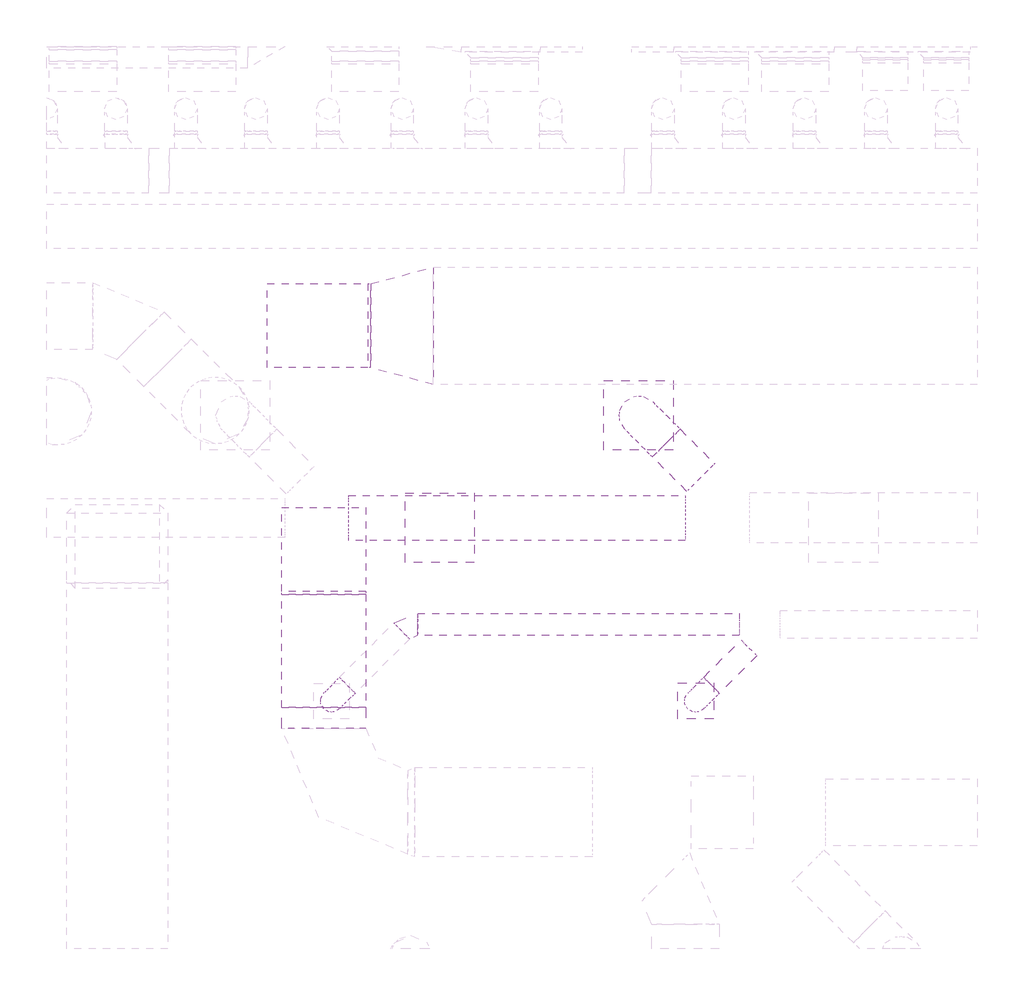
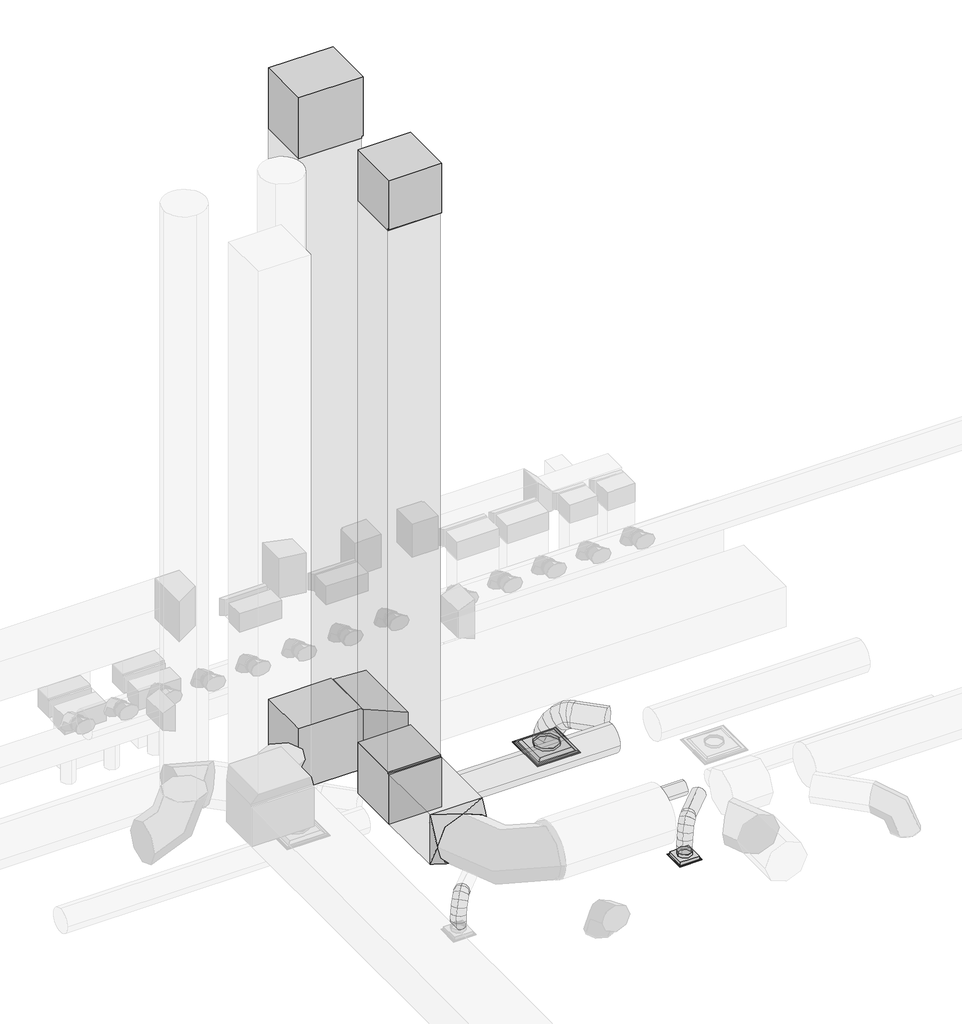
# One storey, part 19 of 33: 10 duct segments, 7 duct fittings, 3 air terminals.
"""IFC4 building model written with IfcOpenShell, lengths in millimetres."""

from ifc_helpers import new_model, si_unit, point, frame, frame_2d, origin, place, context, project, spatial, polyline, circle_curve, ellipse_curve, trimmed, segment, composite_curve, outline, extrude, transform, mapped, element, save
from ifc_brep_helpers import plane_surface, cylinder_surface, advanced_brep
from components import air_terminal_1ddfe03e, air_terminal_0721d01d, par_aa_10_24x24_32668ffe, rectangular_elbow_mitered_standard_415135ef, rectangular_elbow_mitered_standard_6dab44a9, rectangular_transition_angle_30_degree_24c31662, rectangular_to_round_transition_angle_45_degree_88719520, round_elbow_1_d_ab3aa7ba

model = new_model("IFC4")

# Units and contexts
model_context = context("Model", 3, world=origin())
ifc_project = project(units=[si_unit("LENGTHUNIT", "METRE", prefix="MILLI")], contexts=[model_context])

# Site, building, storey
site = spatial("IfcSite", under=ifc_project)
building = spatial("IfcBuilding", under=site)
storey = spatial("IfcBuildingStorey", under=building, Name="T.O. SLAB - 1ST", Elevation=-25.4)

# Air terminals
placement = place(None, origin())
air_terminal_shape = air_terminal_1ddfe03e(model_context)
element("IfcAirTerminal", 1, ObjectType="Titus-Round_Neck_Supply_Diffuser-PCS_Surface_Mount : PCS AA-14_24x24", at=placement, inside=storey, context=model_context, shape_type="MappedRepresentation", body=[
    mapped(air_terminal_shape, transform((23136.5003593, 22983.6286711, 3327.4), x_axis=(1.0, 0.0, 0.0), y_axis=(0.0, -1.0, 0.0), z_axis=(0.0, 0.0, -1.0))),
])
air_terminal_2_shape = air_terminal_0721d01d(model_context)
element("IfcAirTerminal", 2, ObjectType="Titus-Round_Neck_Supply_Diffuser-PCS_Surface_Mount : PCS AA-08_12x12", at=placement, inside=storey, context=model_context, shape_type="MappedRepresentation", body=[
    mapped(air_terminal_2_shape, transform((23653.721449, 20392.8311449, 3022.6), x_axis=(1.0, 0.0, 0.0), y_axis=(0.0, -1.0, 0.0), z_axis=(0.0, 0.0, -1.0))),
])
par_aa_10_24x24_shape = par_aa_10_24x24_32668ffe(model_context)
element("IfcAirTerminal", 3, ObjectType="Titus-Round_Neck_Return_Diffuser-PAR_Surface_Mount : PAR AA-10_24x24", at=placement, inside=storey, context=model_context, shape_type="MappedRepresentation", body=[
    mapped(par_aa_10_24x24_shape, transform((21333.4684507, 21965.7752957, 3327.4), x_axis=(1.0, 0.0, 0.0), y_axis=(0.0, -1.0, 0.0), z_axis=(0.0, 0.0, -1.0))),
])

# Duct fittings
rectangular_elbow_mitered_standard_shape = rectangular_elbow_mitered_standard_415135ef(model_context)
element("IfcDuctFitting", 4, ObjectType="Rectangular Elbow - Mitered : Standard", at=placement, inside=storey, context=model_context, shape_type="MappedRepresentation", body=[
    mapped(rectangular_elbow_mitered_standard_shape, transform((20224.9472431, 23796.4195003, 4038.6), x_axis=(-1.0, 0.0, 0.0), y_axis=(0.0, 0.0, 1.0), z_axis=(0.0, 1.0, 0.0))),
])
element("IfcDuctFitting", 5, ObjectType="Rectangular Elbow - Mitered : Standard", at=placement, inside=storey, context=model_context, shape_type="MappedRepresentation", body=[
    mapped(rectangular_elbow_mitered_standard_shape, transform((20224.9472431, 23796.4195003, 13798.55), x_axis=(0.0, 0.0, 1.0), y_axis=(1.0, 0.0, 0.0), z_axis=(0.0, 1.0, 0.0))),
])
rectangular_elbow_mitered_standard_2_shape = rectangular_elbow_mitered_standard_6dab44a9(model_context)
element("IfcDuctFitting", 6, ObjectType="Rectangular Elbow - Mitered : Standard", at=placement, inside=storey, context=model_context, shape_type="MappedRepresentation", body=[
    mapped(rectangular_elbow_mitered_standard_2_shape, transform((20282.0928767, 21765.894536, 4635.5), x_axis=(0.0, 0.0, -1.0), y_axis=(0.0, -1.0, 0.0), z_axis=(-1.0, 0.0, 0.0))),
])
element("IfcDuctFitting", 7, ObjectType="Rectangular Elbow - Mitered : Standard", at=placement, inside=storey, context=model_context, shape_type="MappedRepresentation", body=[
    mapped(rectangular_elbow_mitered_standard_2_shape, transform((20282.0928767, 21765.894536, 13798.55), x_axis=(0.0, 0.0, 1.0), y_axis=(0.0, -1.0, 0.0), z_axis=(1.0, 0.0, 0.0))),
])
rectangular_transition_angle_30_degree_shape = rectangular_transition_angle_30_degree_24c31662(model_context)
element("IfcDuctFitting", 8, ObjectType="Rectangular Transition - Angle : 30 Degree", at=placement, inside=storey, context=model_context, shape_type="MappedRepresentation", body=[
    mapped(rectangular_transition_angle_30_degree_shape, transform((20707.5472431, 23796.4195003, 4038.6), x_axis=(1.0, 0.0, 0.0), y_axis=(0.0, 1.0, 0.0), z_axis=(0.0, 0.0, 1.0))),
])
rectangular_to_round_transition_angle_45_degree_shape = rectangular_to_round_transition_angle_45_degree_88719520(model_context)
element("IfcDuctFitting", 9, ObjectType="Rectangular to Round Transition - Angle : 45 Degree", at=placement, inside=storey, context=model_context, shape_type="MappedRepresentation", body=[
    mapped(rectangular_to_round_transition_angle_45_degree_shape, transform((20282.0928767, 20334.3097283, 4635.5), x_axis=(0.0022149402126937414, -0.9999975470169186, 0.0), y_axis=(0.9999975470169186, 0.0022149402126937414, 0.0), z_axis=(0.0, 0.0, 1.0))),
])
round_elbow_1_d_shape = round_elbow_1_d_ab3aa7ba(model_context)
element("IfcDuctFitting", 10, ObjectType="Round Elbow : 1 D", at=placement, inside=storey, context=model_context, shape_type="MappedRepresentation", body=[
    mapped(round_elbow_1_d_shape, transform((21047.5507271, 21087.5678553, 3530.6), x_axis=(-1.0, 0.0, 0.0), y_axis=(0.0, -1.0, 0.0), z_axis=(0.0, 0.0, 1.0))),
])

# Duct segments
element("IfcDuctSegment", 11, ObjectType="Flex - Round", at=placement, inside=storey, context=model_context, shape_type="AdvancedBrep", body=[
    advanced_brep(
    [(23869.2474656, 20463.5313612, 3530.6), (23797.4054167, 20535.3734102, 3429.0), (23725.5633677, 20607.2154591, 3530.6), (23797.4054167, 20535.3734102, 3632.2), (23849.0418095, 20443.3257051, 3530.6), (23794.2754474, 20532.2434409, 3429.0), (23705.4598626, 20587.111954, 3530.6), (23760.2262247, 20498.1942182, 3632.2), (23725.3956733, 20320.8216623, 3117.85), (23581.7119665, 20321.1569206, 3117.85), (23582.0472248, 20464.8406274, 3117.85), (23725.7309316, 20464.5053691, 3117.85), (23820.8574207, 20415.226107, 3510.6152643), (23791.9815478, 20529.9564423, 3427.3734621), (23677.4218962, 20559.1583379, 3510.7190883), (23706.2977691, 20444.4280026, 3593.9608904), (23783.6764764, 20378.2568082, 3457.5358649), (23771.1985421, 20509.29174, 3397.7037084), (23640.3179554, 20522.2656043, 3457.7496188), (23652.7958897, 20391.2306726, 3517.5817753), (23756.5972214, 20351.4525413, 3381.543915), (23752.2964403, 20490.5815877, 3344.6591332), (23613.2650413, 20495.4874107, 3381.8315887), (23617.5658224, 20356.3583643, 3418.7163705), (23738.5613301, 20333.6914922, 3292.823325), (23737.3643407, 20475.8770328, 3271.2064459), (23595.2275642, 20477.7248, 3293.1031979), (23596.4245536, 20335.5392594, 3314.7200771), (23728.5118725, 20323.8533603, 3201.5338467), (23728.5415362, 20467.2397593, 3191.0599091), (23585.1685387, 20467.8773015, 3201.7268049), (23585.1388751, 20324.4909026, 3212.2007425), (23725.3956733, 20320.8216623, 3123.0874752), (23725.7309316, 20464.5053691, 3120.3064953), (23582.0472248, 20464.8406274, 3123.1516756), (23581.7119665, 20321.1569206, 3125.9326554)],
    [
        (0, 1, circle_curve(frame((23797.4054167, 20535.3734102, 3530.6), z_axis=(0.7071067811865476, 0.7071067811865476, 0.0), x_axis=(0.7071067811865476, -0.7071067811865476, 0.0)), 101.6)),
        (1, 2, circle_curve(frame((23797.4054167, 20535.3734102, 3530.6), z_axis=(0.7071067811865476, 0.7071067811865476, 0.0), x_axis=(0.7071067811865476, -0.7071067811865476, 0.0)), 101.6)),
        (2, 3, circle_curve(frame((23797.4054167, 20535.3734102, 3530.6), z_axis=(0.7071067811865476, 0.7071067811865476, 0.0), x_axis=(0.7071067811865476, -0.7071067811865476, 0.0)), 101.6)),
        (3, 0, circle_curve(frame((23797.4054167, 20535.3734102, 3530.6), z_axis=(0.7071067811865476, 0.7071067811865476, 0.0), x_axis=(0.7071067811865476, -0.7071067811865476, 0.0)), 101.6)),
        (0, 4),
        (4, 5, ellipse_curve(frame((23777.250836, 20515.2188295, 3530.6), z_axis=(0.6885404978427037, 0.6875621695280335, 0.2305867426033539), x_axis=(0.16098597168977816, 0.16511439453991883, -0.9730471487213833)), 104.4137922, 101.6)),
        (5, 1),
        (5, 6, ellipse_curve(frame((23777.250836, 20515.2188295, 3530.6), z_axis=(0.6885404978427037, 0.6875621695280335, 0.2305867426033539), x_axis=(0.16098597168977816, 0.16511439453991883, -0.9730471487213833)), 104.4137922, 101.6)),
        (6, 2),
        (6, 7, ellipse_curve(frame((23777.250836, 20515.2188295, 3530.6), z_axis=(0.6885404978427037, 0.6875621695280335, 0.2305867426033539), x_axis=(0.16098597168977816, 0.16511439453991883, -0.9730471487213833)), 104.4137922, 101.6)),
        (7, 3),
        (7, 4, ellipse_curve(frame((23777.250836, 20515.2188295, 3530.6), z_axis=(0.6885404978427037, 0.6875621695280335, 0.2305867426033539), x_axis=(0.16098597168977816, 0.16511439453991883, -0.9730471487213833)), 104.4137922, 101.6)),
        (8, 9, circle_curve(frame((23653.721449, 20392.8311449, 3117.85), z_axis=(0.0, 0.0, -1.0), x_axis=(0.7054549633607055, -0.7087547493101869, 0.0)), 101.6)),
        (9, 10, circle_curve(frame((23653.721449, 20392.8311449, 3117.85), z_axis=(0.0, 0.0, -1.0), x_axis=(0.7054549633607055, -0.7087547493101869, 0.0)), 101.6)),
        (10, 11, circle_curve(frame((23653.721449, 20392.8311449, 3117.85), z_axis=(0.0, 0.0, -1.0), x_axis=(0.7054549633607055, -0.7087547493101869, 0.0)), 101.6)),
        (11, 8, circle_curve(frame((23653.721449, 20392.8311449, 3117.85), z_axis=(0.0, 0.0, -1.0), x_axis=(0.7054549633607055, -0.7087547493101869, 0.0)), 101.6)),
        (4, 12),
        (12, 13, ellipse_curve(frame((23749.1396584, 20487.1922225, 3510.6671763), z_axis=(0.5732082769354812, 0.5708060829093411, 0.5878883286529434), x_axis=(0.4142652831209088, 0.41713779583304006, -0.8089377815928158)), 102.96626, 101.6)),
        (13, 5),
        (13, 14, ellipse_curve(frame((23749.1396584, 20487.1922225, 3510.6671763), z_axis=(0.5732082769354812, 0.5708060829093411, 0.5878883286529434), x_axis=(0.4142652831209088, 0.41713779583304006, -0.8089377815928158)), 102.96626, 101.6)),
        (14, 6),
        (14, 15, ellipse_curve(frame((23749.1396584, 20487.1922225, 3510.6671763), z_axis=(0.5732082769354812, 0.5708060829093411, 0.5878883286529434), x_axis=(0.4142652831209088, 0.41713779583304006, -0.8089377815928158)), 102.96626, 101.6)),
        (15, 7),
        (15, 12, ellipse_curve(frame((23749.1396584, 20487.1922225, 3510.6671763), z_axis=(0.5732082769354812, 0.5708060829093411, 0.5878883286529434), x_axis=(0.4142652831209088, 0.41713779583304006, -0.8089377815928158)), 102.96626, 101.6)),
        (12, 16),
        (16, 17, ellipse_curve(frame((23711.9972159, 20450.2612063, 3457.6427418), z_axis=(0.41354590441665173, 0.41047221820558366, 0.8127068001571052), x_axis=(0.5740369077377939, 0.5753079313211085, -0.582668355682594)), 102.8692851, 101.6)),
        (17, 13),
        (17, 18, ellipse_curve(frame((23711.9972159, 20450.2612063, 3457.6427418), z_axis=(0.41354590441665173, 0.41047221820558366, 0.8127068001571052), x_axis=(0.5740369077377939, 0.5753079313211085, -0.582668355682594)), 102.8692851, 101.6)),
        (18, 14),
        (18, 19, ellipse_curve(frame((23711.9972159, 20450.2612063, 3457.6427418), z_axis=(0.41354590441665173, 0.41047221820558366, 0.8127068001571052), x_axis=(0.5740369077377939, 0.5753079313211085, -0.582668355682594)), 102.8692851, 101.6)),
        (19, 15),
        (19, 16, ellipse_curve(frame((23711.9972159, 20450.2612063, 3457.6427418), z_axis=(0.41354590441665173, 0.41047221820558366, 0.8127068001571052), x_axis=(0.5740369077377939, 0.5753079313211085, -0.582668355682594)), 102.8692851, 101.6)),
        (16, 20),
        (20, 21, ellipse_curve(frame((23684.9311314, 20423.469976, 3381.6877519), z_axis=(0.25814230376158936, 0.25502181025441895, 0.9318403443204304), x_axis=(0.6595970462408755, 0.6582256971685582, -0.36286453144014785)), 102.0449505, 101.6)),
        (21, 17),
        (21, 22, ellipse_curve(frame((23684.9311314, 20423.469976, 3381.6877519), z_axis=(0.25814230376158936, 0.25502181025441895, 0.9318403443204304), x_axis=(0.6595970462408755, 0.6582256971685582, -0.36286453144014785)), 102.0449505, 101.6)),
        (22, 18),
        (22, 23, ellipse_curve(frame((23684.9311314, 20423.469976, 3381.6877519), z_axis=(0.25814230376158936, 0.25502181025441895, 0.9318403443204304), x_axis=(0.6595970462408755, 0.6582256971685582, -0.36286453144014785)), 102.0449505, 101.6)),
        (23, 19),
        (23, 20, ellipse_curve(frame((23684.9311314, 20423.469976, 3381.6877519), z_axis=(0.25814230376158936, 0.25502181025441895, 0.9318403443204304), x_axis=(0.6595970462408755, 0.6582256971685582, -0.36286453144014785)), 102.0449505, 101.6)),
        (20, 24),
        (24, 25, ellipse_curve(frame((23666.8944472, 20405.7081461, 3292.9632615), z_axis=(0.15244183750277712, 0.14980324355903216, 0.9768932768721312), x_axis=(0.6935270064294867, 0.6879983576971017, -0.21372541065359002)), 101.7990065, 101.6)),
        (25, 21),
        (25, 26, ellipse_curve(frame((23666.8944472, 20405.7081461, 3292.9632615), z_axis=(0.15244183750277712, 0.14980324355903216, 0.9768932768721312), x_axis=(0.6935270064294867, 0.6879983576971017, -0.21372541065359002)), 101.7990065, 101.6)),
        (26, 22),
        (26, 27, ellipse_curve(frame((23666.8944472, 20405.7081461, 3292.9632615), z_axis=(0.15244183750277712, 0.14980324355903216, 0.9768932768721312), x_axis=(0.6935270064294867, 0.6879983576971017, -0.21372541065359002)), 101.7990065, 101.6)),
        (27, 23),
        (27, 24, ellipse_curve(frame((23666.8944472, 20405.7081461, 3292.9632615), z_axis=(0.15244183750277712, 0.14980324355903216, 0.9768932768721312), x_axis=(0.6935270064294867, 0.6879983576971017, -0.21372541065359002)), 101.7990065, 101.6)),
        (24, 28),
        (28, 29, ellipse_curve(frame((23656.8402056, 20395.8653309, 3201.6303258), z_axis=(0.07431978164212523, 0.07263606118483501, 0.9945856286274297), x_axis=(0.7094713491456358, 0.6970301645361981, -0.10391994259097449)), 101.7208169, 101.6)),
        (29, 25),
        (29, 30, ellipse_curve(frame((23656.8402056, 20395.8653309, 3201.6303258), z_axis=(0.07431978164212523, 0.07263606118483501, 0.9945856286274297), x_axis=(0.7094713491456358, 0.6970301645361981, -0.10391994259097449)), 101.7208169, 101.6)),
        (30, 26),
        (30, 31, ellipse_curve(frame((23656.8402056, 20395.8653309, 3201.6303258), z_axis=(0.07431978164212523, 0.07263606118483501, 0.9945856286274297), x_axis=(0.7094713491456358, 0.6970301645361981, -0.10391994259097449)), 101.7208169, 101.6)),
        (31, 27),
        (31, 28, ellipse_curve(frame((23656.8402056, 20395.8653309, 3201.6303258), z_axis=(0.07431978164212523, 0.07263606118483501, 0.9945856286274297), x_axis=(0.7094713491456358, 0.6970301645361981, -0.10391994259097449)), 101.7208169, 101.6)),
        (28, 32),
        (32, 33, ellipse_curve(frame((23653.721449, 20392.8311449, 3123.1195754), z_axis=(0.019839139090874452, 0.019301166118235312, 0.9996168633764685), x_axis=(0.7164834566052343, 0.6970547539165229, -0.02767898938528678)), 101.6389416, 101.6)),
        (33, 29),
        (33, 34, ellipse_curve(frame((23653.721449, 20392.8311449, 3123.1195754), z_axis=(0.019839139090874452, 0.019301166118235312, 0.9996168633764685), x_axis=(0.7164834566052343, 0.6970547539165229, -0.02767898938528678)), 101.6389416, 101.6)),
        (34, 30),
        (34, 35, ellipse_curve(frame((23653.721449, 20392.8311449, 3123.1195754), z_axis=(0.019839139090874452, 0.019301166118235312, 0.9996168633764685), x_axis=(0.7164834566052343, 0.6970547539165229, -0.02767898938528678)), 101.6389416, 101.6)),
        (35, 31),
        (35, 32, ellipse_curve(frame((23653.721449, 20392.8311449, 3123.1195754), z_axis=(0.019839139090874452, 0.019301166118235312, 0.9996168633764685), x_axis=(0.7164834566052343, 0.6970547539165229, -0.02767898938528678)), 101.6389416, 101.6)),
        (32, 8),
        (11, 33),
        (10, 34),
        (9, 35),
    ],
    [
        plane_surface(frame((23797.4054167, 20535.3734102, 3429.0), z_axis=(0.7071067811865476, 0.7071067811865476, 0.0), x_axis=(0.7071067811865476, -0.7071067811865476, 0.0))),
        cylinder_surface(frame((23797.4054167, 20535.3734102, 3530.6), z_axis=(0.7071067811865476, 0.7071067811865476, 0.0), x_axis=(0.7071067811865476, -0.7071067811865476, 0.0)), 101.6),
        plane_surface(frame((23653.721449, 20291.2311449, 3117.85), z_axis=(0.0, 0.0, -1.0), x_axis=(-1.0, 0.0, 0.0))),
        cylinder_surface(frame((23777.250836, 20515.2188295, 3530.6), z_axis=(0.6328639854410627, 0.6309600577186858, 0.44874556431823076), x_axis=(0.7061541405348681, -0.708058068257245, -0.0003190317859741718)), 101.6),
        cylinder_surface(frame((23749.1396584, 20487.1922225, 3510.6671763), z_axis=(0.4983407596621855, 0.4955040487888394, 0.7114297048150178), x_axis=(0.7056703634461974, -0.7085398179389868, -0.0008151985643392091)), 101.6),
        cylinder_surface(frame((23711.9972159, 20450.2612063, 3457.6427418), z_axis=(0.31854571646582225, 0.31531090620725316, 0.893928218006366), x_axis=(0.7053985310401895, -0.7088096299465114, -0.0013494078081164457)), 101.6),
        cylinder_surface(frame((23684.9311314, 20423.469976, 3381.6877519), z_axis=(0.19548771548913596, 0.1925087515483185, 0.9616261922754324), x_axis=(0.7053604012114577, -0.7088472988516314, -0.0014870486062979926)), 101.6),
        cylinder_surface(frame((23666.8944472, 20405.7081461, 3292.9632615), z_axis=(0.10879994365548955, 0.10651203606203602, 0.988340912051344), x_axis=(0.7053951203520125, -0.7088131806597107, -0.0012645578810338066)), 101.6),
        cylinder_surface(frame((23656.8402056, 20395.8653309, 3201.6303258), z_axis=(0.03966307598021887, 0.038587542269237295, 0.9984677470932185), x_axis=(0.7054424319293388, -0.7087669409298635, -0.0006314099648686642)), 101.6),
        cylinder_surface(frame((23653.721449, 20392.8311449, 3123.1195754), z_axis=(0.0, 0.0, 1.0), x_axis=(0.7054549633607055, -0.7087547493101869, 0.0)), 101.6),
    ],
    [
        (0, [[1, 2, 3, 4]]),
        (1, [[-1, 5, 6, 7]]),
        (1, [[-2, -7, 8, 9]]),
        (1, [[-3, -9, 10, 11]]),
        (1, [[-4, -11, 12, -5]]),
        (2, [[13, 14, 15, 16]]),
        (3, [[-6, 17, 18, 19]]),
        (3, [[-8, -19, 20, 21]]),
        (3, [[-10, -21, 22, 23]]),
        (3, [[-12, -23, 24, -17]]),
        (4, [[-18, 25, 26, 27]]),
        (4, [[-20, -27, 28, 29]]),
        (4, [[-22, -29, 30, 31]]),
        (4, [[-24, -31, 32, -25]]),
        (5, [[-26, 33, 34, 35]]),
        (5, [[-28, -35, 36, 37]]),
        (5, [[-30, -37, 38, 39]]),
        (5, [[-32, -39, 40, -33]]),
        (6, [[-34, 41, 42, 43]]),
        (6, [[-36, -43, 44, 45]]),
        (6, [[-38, -45, 46, 47]]),
        (6, [[-40, -47, 48, -41]]),
        (7, [[-42, 49, 50, 51]]),
        (7, [[-44, -51, 52, 53]]),
        (7, [[-46, -53, 54, 55]]),
        (7, [[-48, -55, 56, -49]]),
        (8, [[-50, 57, 58, 59]]),
        (8, [[-52, -59, 60, 61]]),
        (8, [[-54, -61, 62, 63]]),
        (8, [[-56, -63, 64, -57]]),
        (9, [[-58, 65, -16, 66]]),
        (9, [[-60, -66, -15, 67]]),
        (9, [[-62, -67, -14, 68]]),
        (9, [[-64, -68, -13, -65]]),
    ],
),
])
element("IfcDuctSegment", 12, ObjectType="Flex - Round", at=placement, inside=storey, context=model_context, shape_type="AdvancedBrep", body=[
    advanced_brep(
    [(20567.1983286, 20463.5313589, 3530.6), (20495.3562797, 20535.3734078, 3429.0), (20423.5142307, 20607.2154568, 3530.6), (20495.3562797, 20535.3734078, 3632.2), (20547.0788328, 20443.4118631, 3530.6), (20492.1976312, 20532.2147594, 3429.0), (20403.3947392, 20587.0959653, 3530.6), (20458.2759408, 20498.293069, 3632.2), (20423.5143515, 20319.8474304, 3117.85), (20279.8302536, 20319.8474447, 3117.85), (20279.8302679, 20463.5315426, 3117.85), (20423.5143658, 20463.5315284, 3117.85), (20518.9034884, 20415.2365222, 3510.6753982), (20489.7646951, 20529.7818235, 3427.279514), (20375.219401, 20558.9206307, 3510.6754026), (20404.3581944, 20444.3753294, 3594.0712867), (20481.7529024, 20378.0859452, 3457.6690544), (20468.9456048, 20508.9627383, 3397.574899), (20338.0688183, 20521.770057, 3457.6690635), (20350.8761158, 20390.8932639, 3517.7632188), (20454.692632, 20351.0256866, 3381.7321558), (20450.0385152, 20490.0556569, 3344.5175672), (20311.008549, 20494.7097995, 3381.732168), (20315.6626658, 20355.6798291, 3418.9467566), (20436.668741, 20333.0018072, 3293.0158897), (20435.1222896, 20475.139441, 3271.0976913), (20292.9846579, 20476.6859201, 3293.0159016), (20294.5311093, 20334.5482863, 3314.9340999), (20426.6272929, 20322.9603682, 3201.6714421), (20426.3168846, 20466.3340439, 3190.9972072), (20282.9432094, 20466.6444806, 3201.6714503), (20283.2536177, 20323.2708048, 3212.3456852), (20423.5143515, 20319.8474304, 3123.1787579), (20423.5143658, 20463.5315284, 3120.3318142), (20279.8302679, 20463.5315426, 3123.1787606), (20279.8302536, 20319.8474447, 3126.0257042)],
    [
        (0, 1, circle_curve(frame((20495.3562797, 20535.3734078, 3530.6), z_axis=(0.7071067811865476, 0.7071067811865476, 0.0), x_axis=(0.7071067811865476, -0.7071067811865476, 0.0)), 101.6)),
        (1, 2, circle_curve(frame((20495.3562797, 20535.3734078, 3530.6), z_axis=(0.7071067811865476, 0.7071067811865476, 0.0), x_axis=(0.7071067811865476, -0.7071067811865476, 0.0)), 101.6)),
        (2, 3, circle_curve(frame((20495.3562797, 20535.3734078, 3530.6), z_axis=(0.7071067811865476, 0.7071067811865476, 0.0), x_axis=(0.7071067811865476, -0.7071067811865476, 0.0)), 101.6)),
        (3, 0, circle_curve(frame((20495.3562797, 20535.3734078, 3530.6), z_axis=(0.7071067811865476, 0.7071067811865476, 0.0), x_axis=(0.7071067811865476, -0.7071067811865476, 0.0)), 101.6)),
        (0, 4),
        (4, 5, ellipse_curve(frame((20475.236786, 20515.2539142, 3530.6), z_axis=(0.6881883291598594, 0.6881882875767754, 0.22976880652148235), x_axis=(0.16247099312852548, 0.1624711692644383, -0.973245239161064)), 104.39301, 101.6)),
        (5, 1),
        (5, 6, ellipse_curve(frame((20475.236786, 20515.2539142, 3530.6), z_axis=(0.6881883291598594, 0.6881882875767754, 0.22976880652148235), x_axis=(0.16247099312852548, 0.1624711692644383, -0.973245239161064)), 104.39301, 101.6)),
        (6, 2),
        (6, 7, ellipse_curve(frame((20475.236786, 20515.2539142, 3530.6), z_axis=(0.6881883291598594, 0.6881882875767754, 0.22976880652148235), x_axis=(0.16247099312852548, 0.1624711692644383, -0.973245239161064)), 104.39301, 101.6)),
        (7, 3),
        (7, 4, ellipse_curve(frame((20475.236786, 20515.2539142, 3530.6), z_axis=(0.6881883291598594, 0.6881882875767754, 0.22976880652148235), x_axis=(0.16247099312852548, 0.1624711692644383, -0.973245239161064)), 104.39301, 101.6)),
        (8, 9, circle_curve(frame((20351.6723097, 20391.6894865, 3117.85), z_axis=(0.0, 0.0, -1.0), x_axis=(0.7071067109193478, -0.7071068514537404, 0.0)), 101.6)),
        (9, 10, circle_curve(frame((20351.6723097, 20391.6894865, 3117.85), z_axis=(0.0, 0.0, -1.0), x_axis=(0.7071067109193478, -0.7071068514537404, 0.0)), 101.6)),
        (10, 11, circle_curve(frame((20351.6723097, 20391.6894865, 3117.85), z_axis=(0.0, 0.0, -1.0), x_axis=(0.7071067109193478, -0.7071068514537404, 0.0)), 101.6)),
        (11, 8, circle_curve(frame((20351.6723097, 20391.6894865, 3117.85), z_axis=(0.0, 0.0, -1.0), x_axis=(0.7071067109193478, -0.7071068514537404, 0.0)), 101.6)),
        (4, 12),
        (12, 13, ellipse_curve(frame((20447.0614447, 20487.0785765, 3510.6754004), z_axis=(0.572711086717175, 0.5727109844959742, 0.5865186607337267), x_axis=(0.4147312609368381, 0.41473138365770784, -0.8099357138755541)), 102.9660563, 101.6)),
        (13, 5),
        (13, 14, ellipse_curve(frame((20447.0614447, 20487.0785765, 3510.6754004), z_axis=(0.572711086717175, 0.5727109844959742, 0.5865186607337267), x_axis=(0.4147312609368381, 0.41473138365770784, -0.8099357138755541)), 102.9660563, 101.6)),
        (14, 6),
        (14, 15, ellipse_curve(frame((20447.0614447, 20487.0785765, 3510.6754004), z_axis=(0.572711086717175, 0.5727109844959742, 0.5865186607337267), x_axis=(0.4147312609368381, 0.41473138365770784, -0.8099357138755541)), 102.9660563, 101.6)),
        (15, 7),
        (15, 12, ellipse_curve(frame((20447.0614447, 20487.0785765, 3510.6754004), z_axis=(0.572711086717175, 0.5727109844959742, 0.5865186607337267), x_axis=(0.4147312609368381, 0.41473138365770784, -0.8099357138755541)), 102.9660563, 101.6)),
        (12, 16),
        (16, 17, ellipse_curve(frame((20409.9108603, 20449.9280011, 3457.6690589), z_axis=(0.41308890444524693, 0.4130887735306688, 0.811612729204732), x_axis=(0.573896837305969, 0.5738968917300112, -0.5841958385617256)), 102.8664635, 101.6)),
        (17, 13),
        (17, 18, ellipse_curve(frame((20409.9108603, 20449.9280011, 3457.6690589), z_axis=(0.41308890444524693, 0.4130887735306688, 0.811612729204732), x_axis=(0.573896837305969, 0.5738968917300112, -0.5841958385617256)), 102.8664635, 101.6)),
        (18, 14),
        (18, 19, ellipse_curve(frame((20409.9108603, 20449.9280011, 3457.6690589), z_axis=(0.41308890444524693, 0.4130887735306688, 0.811612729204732), x_axis=(0.573896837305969, 0.5738968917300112, -0.5841958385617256)), 102.8664635, 101.6)),
        (19, 15),
        (19, 16, ellipse_curve(frame((20409.9108603, 20449.9280011, 3457.6690589), z_axis=(0.41308890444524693, 0.4130887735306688, 0.811612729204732), x_axis=(0.573896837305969, 0.5738968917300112, -0.5841958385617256)), 102.8664635, 101.6)),
        (16, 20),
        (20, 21, ellipse_curve(frame((20382.8505905, 20422.867743, 3381.7321619), z_axis=(0.2578712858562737, 0.2578711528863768, 0.931130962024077), x_axis=(0.6584090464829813, 0.6584089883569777, -0.3646849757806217)), 102.0458674, 101.6)),
        (21, 17),
        (21, 22, ellipse_curve(frame((20382.8505905, 20422.867743, 3381.7321619), z_axis=(0.2578712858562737, 0.2578711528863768, 0.931130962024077), x_axis=(0.6584090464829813, 0.6584089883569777, -0.3646849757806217)), 102.0458674, 101.6)),
        (22, 18),
        (22, 23, ellipse_curve(frame((20382.8505905, 20422.867743, 3381.7321619), z_axis=(0.2578712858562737, 0.2578711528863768, 0.931130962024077), x_axis=(0.6584090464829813, 0.6584089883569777, -0.3646849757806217)), 102.0458674, 101.6)),
        (23, 19),
        (23, 20, ellipse_curve(frame((20382.8505905, 20422.867743, 3381.7321619), z_axis=(0.2578712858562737, 0.2578711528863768, 0.931130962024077), x_axis=(0.6584090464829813, 0.6584089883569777, -0.3646849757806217)), 102.0458674, 101.6)),
        (20, 24),
        (24, 25, ellipse_curve(frame((20364.8266995, 20404.8438637, 3293.0158956), z_axis=(0.15224398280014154, 0.15224387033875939, 0.9765467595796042), x_axis=(0.6905229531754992, 0.690522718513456, -0.21530542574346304)), 101.80052, 101.6)),
        (25, 21),
        (25, 26, ellipse_curve(frame((20364.8266995, 20404.8438637, 3293.0158956), z_axis=(0.15224398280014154, 0.15224387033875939, 0.9765467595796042), x_axis=(0.6905229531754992, 0.690522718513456, -0.21530542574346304)), 101.80052, 101.6)),
        (26, 22),
        (26, 27, ellipse_curve(frame((20364.8266995, 20404.8438637, 3293.0158956), z_axis=(0.15224398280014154, 0.15224387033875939, 0.9765467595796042), x_axis=(0.6905229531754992, 0.690522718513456, -0.21530542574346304)), 101.80052, 101.6)),
        (27, 23),
        (27, 24, ellipse_curve(frame((20364.8266995, 20404.8438637, 3293.0158956), z_axis=(0.15224398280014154, 0.15224387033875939, 0.9765467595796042), x_axis=(0.6905229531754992, 0.690522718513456, -0.21530542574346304)), 101.80052, 101.6)),
        (24, 28),
        (28, 29, ellipse_curve(frame((20354.7852512, 20394.8024244, 3201.6714462), z_axis=(0.07420013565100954, 0.07420006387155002, 0.9944791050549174), x_axis=(0.7032031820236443, 0.70320265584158, -0.1049347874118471)), 101.7225961, 101.6)),
        (29, 25),
        (29, 30, ellipse_curve(frame((20354.7852512, 20394.8024244, 3201.6714462), z_axis=(0.07420013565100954, 0.07420006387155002, 0.9944791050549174), x_axis=(0.7032031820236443, 0.70320265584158, -0.1049347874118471)), 101.7225961, 101.6)),
        (30, 26),
        (30, 31, ellipse_curve(frame((20354.7852512, 20394.8024244, 3201.6714462), z_axis=(0.07420013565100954, 0.07420006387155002, 0.9944791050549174), x_axis=(0.7032031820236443, 0.70320265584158, -0.1049347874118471)), 101.7225961, 101.6)),
        (31, 27),
        (31, 28, ellipse_curve(frame((20354.7852512, 20394.8024244, 3201.6714462), z_axis=(0.07420013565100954, 0.07420006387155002, 0.9944791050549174), x_axis=(0.7032031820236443, 0.70320265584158, -0.1049347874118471)), 101.7225961, 101.6)),
        (28, 32),
        (32, 33, ellipse_curve(frame((20351.6723097, 20391.6894865, 3123.1787592), z_axis=(0.01980615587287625, 0.019806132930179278, 0.9996076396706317), x_axis=(0.7068297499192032, 0.7068289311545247, -0.028010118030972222)), 101.6398795, 101.6)),
        (33, 29),
        (33, 34, ellipse_curve(frame((20351.6723097, 20391.6894865, 3123.1787592), z_axis=(0.01980615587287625, 0.019806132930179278, 0.9996076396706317), x_axis=(0.7068297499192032, 0.7068289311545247, -0.028010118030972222)), 101.6398795, 101.6)),
        (34, 30),
        (34, 35, ellipse_curve(frame((20351.6723097, 20391.6894865, 3123.1787592), z_axis=(0.01980615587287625, 0.019806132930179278, 0.9996076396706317), x_axis=(0.7068297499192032, 0.7068289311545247, -0.028010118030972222)), 101.6398795, 101.6)),
        (35, 31),
        (35, 32, ellipse_curve(frame((20351.6723097, 20391.6894865, 3123.1787592), z_axis=(0.01980615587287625, 0.019806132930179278, 0.9996076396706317), x_axis=(0.7068297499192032, 0.7068289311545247, -0.028010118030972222)), 101.6398795, 101.6)),
        (32, 8),
        (11, 33),
        (10, 34),
        (9, 35),
    ],
    [
        plane_surface(frame((20495.3562797, 20535.3734078, 3429.0), z_axis=(0.7071067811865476, 0.7071067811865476, 0.0), x_axis=(0.7071067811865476, -0.7071067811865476, 0.0))),
        cylinder_surface(frame((20495.3562797, 20535.3734078, 3530.6), z_axis=(0.7071067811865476, 0.7071067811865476, 0.0), x_axis=(0.7071067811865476, -0.7071067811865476, 0.0)), 101.6),
        plane_surface(frame((20351.6723097, 20290.0894865, 3117.85), z_axis=(0.0, 0.0, -1.0), x_axis=(-1.0, 0.0, 0.0))),
        cylinder_surface(frame((20475.236786, 20515.2539142, 3530.6), z_axis=(0.6324452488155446, 0.6324451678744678, 0.4472427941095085), x_axis=(0.7071067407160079, -0.7071068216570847, -1.3512097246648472e-08)), 101.6),
        cylinder_surface(frame((20447.0614447, 20487.0785765, 3510.6754004), z_axis=(0.49778054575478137, 0.49778042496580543, 0.7102317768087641), x_axis=(0.7071067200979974, -0.7071068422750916, -3.46271900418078e-08)), 101.6),
        cylinder_surface(frame((20409.9108603, 20449.9280011, 3457.6690589), z_axis=(0.3182255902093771, 0.3182254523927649, 0.8930089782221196), x_axis=(0.7071067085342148, -0.7071068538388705, -5.734702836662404e-08)), 101.6),
        cylinder_surface(frame((20382.8505905, 20422.867743, 3381.7321619), z_axis=(0.19526355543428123, 0.19526342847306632, 0.9611161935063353), x_axis=(0.7071067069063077, -0.7071068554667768, -6.322513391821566e-08)), 101.6),
        cylinder_surface(frame((20364.8266995, 20404.8438637, 3293.0158956), z_axis=(0.10862464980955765, 0.1086245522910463, 0.988130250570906), x_axis=(0.7071067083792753, -0.7071068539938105, -5.3776999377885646e-08)), 101.6),
        cylinder_surface(frame((20354.7852512, 20394.8024244, 3201.6714462), z_axis=(0.03959676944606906, 0.03959672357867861, 0.998430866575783), x_axis=(0.7071067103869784, -0.7071068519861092, -2.6868438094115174e-08)), 101.6),
        cylinder_surface(frame((20351.6723097, 20391.6894865, 3123.1787592), z_axis=(0.0, 0.0, 1.0000000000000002), x_axis=(0.7071067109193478, -0.7071068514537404, 0.0)), 101.6),
    ],
    [
        (0, [[1, 2, 3, 4]]),
        (1, [[-1, 5, 6, 7]]),
        (1, [[-2, -7, 8, 9]]),
        (1, [[-3, -9, 10, 11]]),
        (1, [[-4, -11, 12, -5]]),
        (2, [[13, 14, 15, 16]]),
        (3, [[-6, 17, 18, 19]]),
        (3, [[-8, -19, 20, 21]]),
        (3, [[-10, -21, 22, 23]]),
        (3, [[-12, -23, 24, -17]]),
        (4, [[-18, 25, 26, 27]]),
        (4, [[-20, -27, 28, 29]]),
        (4, [[-22, -29, 30, 31]]),
        (4, [[-24, -31, 32, -25]]),
        (5, [[-26, 33, 34, 35]]),
        (5, [[-28, -35, 36, 37]]),
        (5, [[-30, -37, 38, 39]]),
        (5, [[-32, -39, 40, -33]]),
        (6, [[-34, 41, 42, 43]]),
        (6, [[-36, -43, 44, 45]]),
        (6, [[-38, -45, 46, 47]]),
        (6, [[-40, -47, 48, -41]]),
        (7, [[-42, 49, 50, 51]]),
        (7, [[-44, -51, 52, 53]]),
        (7, [[-46, -53, 54, 55]]),
        (7, [[-48, -55, 56, -49]]),
        (8, [[-50, 57, 58, 59]]),
        (8, [[-52, -59, 60, 61]]),
        (8, [[-54, -61, 62, 63]]),
        (8, [[-56, -63, 64, -57]]),
        (9, [[-58, 65, -16, 66]]),
        (9, [[-60, -66, -15, 67]]),
        (9, [[-62, -67, -14, 68]]),
        (9, [[-64, -68, -13, -65]]),
    ],
),
])
element("IfcDuctSegment", 13, ObjectType="Flex - Round", at=placement, inside=storey, context=model_context, shape_type="AdvancedBrep", body=[
    advanced_brep(
    [(23262.2239404, 22606.4579196, 3886.192755), (23387.9475261, 22732.1815053, 3708.392755), (23513.6711118, 22857.905091, 3886.192755), (23387.9475261, 22732.1815053, 4063.992755), (23234.7574583, 22633.9244017, 3886.192755), (23383.5631186, 22736.5659129, 3708.392755), (23486.2046296, 22885.3715732, 3886.192755), (23337.3989694, 22782.7300621, 4063.992755), (23010.7767738, 22857.9050852, 3416.3), (23010.7767734, 23109.3522566, 3416.3), (23262.2239448, 23109.352257, 3416.3), (23262.2239452, 22857.9050856, 3416.3), (23195.3709483, 22673.3109117, 3865.026618), (23379.2040844, 22740.924947, 3706.0502293), (23446.8181194, 22924.7580833, 3865.0266179), (23262.9849832, 22857.144048, 4024.0030066), (23135.3030208, 22733.3788389, 3808.0190551), (23345.0562958, 22775.0727355, 3673.6422158), (23386.7501918, 22984.8260107, 3808.0190549), (23176.9969168, 22943.1321142, 3942.3958943), (23084.4148989, 22784.2669606, 3724.9063392), (23313.6071826, 22806.5218485, 3622.2781428), (23335.8620698, 23035.7141325, 3724.906339), (23106.6697861, 23013.4592446, 3827.5345354), (23045.1013232, 22823.5805361, 3625.4247429), (23286.2275637, 22833.9014673, 3552.9949968), (23296.5484942, 23075.0277079, 3625.4247427), (23055.4222537, 23064.7067766, 3697.8544888), (23019.7570346, 22848.9248245, 3519.310539), (23268.0350818, 22852.093949, 3476.8247496), (23271.2042056, 23100.3719963, 3519.3105388), (23022.9261584, 23097.2028718, 3561.7963281), (23010.7767738, 22857.9050852, 3438.055959), (23262.2239452, 22857.9050856, 3424.2448216), (23262.2239448, 23109.352257, 3438.055959), (23010.7767734, 23109.3522566, 3451.8670965)],
    [
        (0, 1, circle_curve(frame((23387.9475261, 22732.1815053, 3886.192755), z_axis=(0.7071067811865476, -0.7071067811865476, 0.0), x_axis=(-0.7071067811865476, -0.7071067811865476, 0.0)), 177.8)),
        (1, 2, circle_curve(frame((23387.9475261, 22732.1815053, 3886.192755), z_axis=(0.7071067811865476, -0.7071067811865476, 0.0), x_axis=(-0.7071067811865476, -0.7071067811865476, 0.0)), 177.8)),
        (2, 3, circle_curve(frame((23387.9475261, 22732.1815053, 3886.192755), z_axis=(0.7071067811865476, -0.7071067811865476, 0.0), x_axis=(-0.7071067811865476, -0.7071067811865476, 0.0)), 177.8)),
        (3, 0, circle_curve(frame((23387.9475261, 22732.1815053, 3886.192755), z_axis=(0.7071067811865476, -0.7071067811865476, 0.0), x_axis=(-0.7071067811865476, -0.7071067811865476, 0.0)), 177.8)),
        (0, 4),
        (4, 5, ellipse_curve(frame((23360.481044, 22759.6479875, 3886.192755), z_axis=(0.6954827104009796, -0.6954827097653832, 0.18057574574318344), x_axis=(0.12768633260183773, -0.1276863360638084, -0.9835610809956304)), 180.7716912, 177.8)),
        (5, 1),
        (5, 6, ellipse_curve(frame((23360.481044, 22759.6479875, 3886.192755), z_axis=(0.6954827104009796, -0.6954827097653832, 0.18057574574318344), x_axis=(0.12768633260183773, -0.1276863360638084, -0.9835610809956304)), 180.7716912, 177.8)),
        (6, 2),
        (6, 7, ellipse_curve(frame((23360.481044, 22759.6479875, 3886.192755), z_axis=(0.6954827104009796, -0.6954827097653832, 0.18057574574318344), x_axis=(0.12768633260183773, -0.1276863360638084, -0.9835610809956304)), 180.7716912, 177.8)),
        (7, 3),
        (7, 4, ellipse_curve(frame((23360.481044, 22759.6479875, 3886.192755), z_axis=(0.6954827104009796, -0.6954827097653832, 0.18057574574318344), x_axis=(0.12768633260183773, -0.1276863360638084, -0.9835610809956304)), 180.7716912, 177.8)),
        (8, 9, circle_curve(frame((23136.5003593, 22983.6286711, 3416.3), z_axis=(0.0, 0.0, -1.0), x_axis=(-0.7071067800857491, -0.707106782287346, 0.0)), 177.8)),
        (9, 10, circle_curve(frame((23136.5003593, 22983.6286711, 3416.3), z_axis=(0.0, 0.0, -1.0), x_axis=(-0.7071067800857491, -0.707106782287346, 0.0)), 177.8)),
        (10, 11, circle_curve(frame((23136.5003593, 22983.6286711, 3416.3), z_axis=(0.0, 0.0, -1.0), x_axis=(-0.7071067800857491, -0.707106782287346, 0.0)), 177.8)),
        (11, 8, circle_curve(frame((23136.5003593, 22983.6286711, 3416.3), z_axis=(0.0, 0.0, -1.0), x_axis=(-0.7071067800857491, -0.707106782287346, 0.0)), 177.8)),
        (4, 12),
        (12, 13, ellipse_curve(frame((23321.0945338, 22799.0344975, 3865.0266179), z_axis=(0.6281450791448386, -0.6281450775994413, 0.459203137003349), x_axis=(0.3247056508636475, -0.3247056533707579, -0.8883312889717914)), 178.9606992, 177.8)),
        (13, 5),
        (13, 14, ellipse_curve(frame((23321.0945338, 22799.0344975, 3865.0266179), z_axis=(0.6281450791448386, -0.6281450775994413, 0.459203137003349), x_axis=(0.3247056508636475, -0.3247056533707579, -0.8883312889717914)), 178.9606992, 177.8)),
        (14, 6),
        (14, 15, ellipse_curve(frame((23321.0945338, 22799.0344975, 3865.0266179), z_axis=(0.6281450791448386, -0.6281450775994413, 0.459203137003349), x_axis=(0.3247056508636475, -0.3247056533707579, -0.8883312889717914)), 178.9606992, 177.8)),
        (15, 7),
        (15, 12, ellipse_curve(frame((23321.0945338, 22799.0344975, 3865.0266179), z_axis=(0.6281450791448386, -0.6281450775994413, 0.459203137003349), x_axis=(0.3247056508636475, -0.3247056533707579, -0.8883312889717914)), 178.9606992, 177.8)),
        (12, 16),
        (16, 17, ellipse_curve(frame((23261.0266063, 22859.1024248, 3808.019055), z_axis=(0.5296907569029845, -0.5296907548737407, 0.6624616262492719), x_axis=(0.46843110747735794, -0.4684311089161, -0.7490958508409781)), 179.3853738, 177.8)),
        (17, 13),
        (17, 18, ellipse_curve(frame((23261.0266063, 22859.1024248, 3808.019055), z_axis=(0.5296907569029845, -0.5296907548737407, 0.6624616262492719), x_axis=(0.46843110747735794, -0.4684311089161, -0.7490958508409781)), 179.3853738, 177.8)),
        (18, 14),
        (18, 19, ellipse_curve(frame((23261.0266063, 22859.1024248, 3808.019055), z_axis=(0.5296907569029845, -0.5296907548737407, 0.6624616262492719), x_axis=(0.46843110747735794, -0.4684311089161, -0.7490958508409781)), 179.3853738, 177.8)),
        (19, 15),
        (19, 16, ellipse_curve(frame((23261.0266063, 22859.1024248, 3808.019055), z_axis=(0.5296907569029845, -0.5296907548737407, 0.6624616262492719), x_axis=(0.46843110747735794, -0.4684311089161, -0.7490958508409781)), 179.3853738, 177.8)),
        (16, 20),
        (20, 21, ellipse_curve(frame((23210.1384844, 22909.9905465, 3724.9063391), z_axis=(0.40602842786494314, -0.4060284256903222, 0.818707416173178), x_axis=(0.5789135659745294, -0.5789135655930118, -0.5742109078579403)), 178.7290958, 177.8)),
        (21, 17),
        (21, 22, ellipse_curve(frame((23210.1384844, 22909.9905465, 3724.9063391), z_axis=(0.40602842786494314, -0.4060284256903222, 0.818707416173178), x_axis=(0.5789135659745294, -0.5789135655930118, -0.5742109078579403)), 178.7290958, 177.8)),
        (22, 18),
        (22, 23, ellipse_curve(frame((23210.1384844, 22909.9905465, 3724.9063391), z_axis=(0.40602842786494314, -0.4060284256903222, 0.818707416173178), x_axis=(0.5789135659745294, -0.5789135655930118, -0.5742109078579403)), 178.7290958, 177.8)),
        (23, 19),
        (23, 20, ellipse_curve(frame((23210.1384844, 22909.9905465, 3724.9063391), z_axis=(0.40602842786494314, -0.4060284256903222, 0.818707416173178), x_axis=(0.5789135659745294, -0.5789135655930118, -0.5742109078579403)), 178.7290958, 177.8)),
        (20, 24),
        (24, 25, ellipse_curve(frame((23170.8249087, 22949.304122, 3625.4247428), z_axis=(0.2868347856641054, -0.28683478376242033, 0.9140304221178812), x_axis=(0.646317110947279, -0.6463171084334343, -0.4056456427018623)), 178.5542315, 177.8)),
        (25, 21),
        (25, 26, ellipse_curve(frame((23170.8249087, 22949.304122, 3625.4247428), z_axis=(0.2868347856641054, -0.28683478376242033, 0.9140304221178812), x_axis=(0.646317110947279, -0.6463171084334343, -0.4056456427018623)), 178.5542315, 177.8)),
        (26, 22),
        (26, 27, ellipse_curve(frame((23170.8249087, 22949.304122, 3625.4247428), z_axis=(0.2868347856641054, -0.28683478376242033, 0.9140304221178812), x_axis=(0.646317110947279, -0.6463171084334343, -0.4056456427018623)), 178.5542315, 177.8)),
        (27, 23),
        (27, 24, ellipse_curve(frame((23170.8249087, 22949.304122, 3625.4247428), z_axis=(0.2868347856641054, -0.28683478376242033, 0.9140304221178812), x_axis=(0.646317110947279, -0.6463171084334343, -0.4056456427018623)), 178.5542315, 177.8)),
        (24, 28),
        (28, 29, ellipse_curve(frame((23145.4806201, 22974.6484104, 3519.3105389), z_axis=(0.16835006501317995, -0.16835006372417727, 0.9712448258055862), x_axis=(0.6867738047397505, -0.6867738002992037, -0.23808294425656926)), 178.4495289, 177.8)),
        (29, 25),
        (29, 30, ellipse_curve(frame((23145.4806201, 22974.6484104, 3519.3105389), z_axis=(0.16835006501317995, -0.16835006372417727, 0.9712448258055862), x_axis=(0.6867738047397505, -0.6867738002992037, -0.23808294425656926)), 178.4495289, 177.8)),
        (30, 26),
        (30, 31, ellipse_curve(frame((23145.4806201, 22974.6484104, 3519.3105389), z_axis=(0.16835006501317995, -0.16835006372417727, 0.9712448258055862), x_axis=(0.6867738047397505, -0.6867738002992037, -0.23808294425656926)), 178.4495289, 177.8)),
        (31, 27),
        (31, 28, ellipse_curve(frame((23145.4806201, 22974.6484104, 3519.3105389), z_axis=(0.16835006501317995, -0.16835006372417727, 0.9712448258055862), x_axis=(0.6867738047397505, -0.6867738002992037, -0.23808294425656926)), 178.4495289, 177.8)),
        (28, 32),
        (32, 33, ellipse_curve(frame((23136.5003593, 22983.6286711, 3438.055959), z_axis=(0.05476163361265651, -0.05476163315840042, 0.9969966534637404), x_axis=(0.7049830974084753, -0.7049830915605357, -0.07744464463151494)), 178.3356036, 177.8)),
        (33, 29),
        (33, 34, ellipse_curve(frame((23136.5003593, 22983.6286711, 3438.055959), z_axis=(0.05476163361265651, -0.05476163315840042, 0.9969966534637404), x_axis=(0.7049830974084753, -0.7049830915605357, -0.07744464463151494)), 178.3356036, 177.8)),
        (34, 30),
        (34, 35, ellipse_curve(frame((23136.5003593, 22983.6286711, 3438.055959), z_axis=(0.05476163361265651, -0.05476163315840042, 0.9969966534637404), x_axis=(0.7049830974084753, -0.7049830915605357, -0.07744464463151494)), 178.3356036, 177.8)),
        (35, 31),
        (35, 32, ellipse_curve(frame((23136.5003593, 22983.6286711, 3438.055959), z_axis=(0.05476163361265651, -0.05476163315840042, 0.9969966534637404), x_axis=(0.7049830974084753, -0.7049830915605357, -0.07744464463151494)), 178.3356036, 177.8)),
        (32, 8),
        (11, 33),
        (10, 34),
        (9, 35),
    ],
    [
        plane_surface(frame((23387.9475261, 22732.1815053, 4063.992755), z_axis=(0.7071067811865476, -0.7071067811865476, 0.0), x_axis=(0.7071067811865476, 0.7071067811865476, 0.0))),
        cylinder_surface(frame((23387.9475261, 22732.1815053, 3886.192755), z_axis=(0.7071067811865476, -0.7071067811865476, 0.0), x_axis=(-0.7071067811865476, -0.7071067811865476, 0.0)), 177.8),
        plane_surface(frame((23136.5003593, 22805.8286711, 3416.3), z_axis=(0.0, 0.0, -1.0), x_axis=(-1.0, 0.0, 0.0))),
        cylinder_surface(frame((23360.481044, 22759.6479875, 3886.192755), z_axis=(0.6609926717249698, -0.6609926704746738, 0.3552145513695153), x_axis=(-0.7071067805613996, -0.7071067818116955, 1.6231396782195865e-10)), 177.8),
        cylinder_surface(frame((23321.0945338, 22799.0344975, 3865.0266179), z_axis=(0.5871494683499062, -0.5871494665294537, 0.5572351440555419), x_axis=(-0.7071067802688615, -0.7071067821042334, 3.76172823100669e-10)), 177.8),
        cylinder_surface(frame((23261.0266063, 22859.1024248, 3808.019055), z_axis=(0.4628694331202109, -0.4628694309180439, 0.7559786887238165), x_axis=(-0.7071067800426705, -0.7071067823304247, 6.590605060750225e-10)), 177.8),
        cylinder_surface(frame((23210.1384844, 22909.9905465, 3724.9063391), z_axis=(0.34496606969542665, -0.34496606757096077, 0.8729242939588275), x_axis=(-0.7071067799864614, -0.7071067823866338, 7.723993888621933e-10)), 177.8),
        cylinder_surface(frame((23170.8249087, 22949.304122, 3625.4247428), z_axis=(0.22628026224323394, -0.22628026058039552, 0.9474146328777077), x_axis=(-0.7071067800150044, -0.7071067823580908, 6.814441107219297e-10)), 177.8),
        cylinder_surface(frame((23145.4806201, 22974.6484104, 3519.3105389), z_axis=(0.10919433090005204, -0.10919432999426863, 0.9880046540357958), x_axis=(-0.7071067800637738, -0.7071067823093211, 4.0008369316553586e-10)), 177.8),
        cylinder_surface(frame((23136.5003593, 22983.6286711, 3438.055959), z_axis=(0.0, 0.0, 1.0), x_axis=(-0.7071067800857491, -0.707106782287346, 0.0)), 177.8),
    ],
    [
        (0, [[1, 2, 3, 4]]),
        (1, [[-1, 5, 6, 7]]),
        (1, [[-2, -7, 8, 9]]),
        (1, [[-3, -9, 10, 11]]),
        (1, [[-4, -11, 12, -5]]),
        (2, [[13, 14, 15, 16]]),
        (3, [[-6, 17, 18, 19]]),
        (3, [[-8, -19, 20, 21]]),
        (3, [[-10, -21, 22, 23]]),
        (3, [[-12, -23, 24, -17]]),
        (4, [[-18, 25, 26, 27]]),
        (4, [[-20, -27, 28, 29]]),
        (4, [[-22, -29, 30, 31]]),
        (4, [[-24, -31, 32, -25]]),
        (5, [[-26, 33, 34, 35]]),
        (5, [[-28, -35, 36, 37]]),
        (5, [[-30, -37, 38, 39]]),
        (5, [[-32, -39, 40, -33]]),
        (6, [[-34, 41, 42, 43]]),
        (6, [[-36, -43, 44, 45]]),
        (6, [[-38, -45, 46, 47]]),
        (6, [[-40, -47, 48, -41]]),
        (7, [[-42, 49, 50, 51]]),
        (7, [[-44, -51, 52, 53]]),
        (7, [[-46, -53, 54, 55]]),
        (7, [[-48, -55, 56, -49]]),
        (8, [[-50, 57, 58, 59]]),
        (8, [[-52, -59, 60, 61]]),
        (8, [[-54, -61, 62, 63]]),
        (8, [[-56, -63, 64, -57]]),
        (9, [[-58, 65, -16, 66]]),
        (9, [[-60, -66, -15, 67]]),
        (9, [[-62, -67, -14, 68]]),
        (9, [[-64, -68, -13, -65]]),
    ],
),
])
element("IfcDuctSegment", 14, ObjectType="Mitered Elbows / Taps", at=placement, inside=storey, context=model_context, shape_type="SweptSolid", body=[
    extrude(outline(polyline([(19767.7472431, 23415.4195003), (19767.7472431, 24177.4195003), (20682.1472431, 24177.4195003), (20682.1472431, 23415.4195003), (19767.7472431, 23415.4195003)])), frame((0.0, 0.0, 4521.2), z_axis=(0.0, 0.0, 1.0), x_axis=(1.0, 0.0, 0.0)), (0.0, 0.0, 1.0), 8794.75),
])
element("IfcDuctSegment", 15, ObjectType="Mitered Elbows / Taps", at=placement, inside=storey, context=model_context, shape_type="SweptSolid", body=[
    extrude(outline(polyline([(20663.0928767, 21384.894536), (19901.0928767, 21384.894536), (19901.0928767, 22146.894536), (20663.0928767, 22146.894536), (20663.0928767, 21384.894536)])), frame((0.0, 0.0, 5041.9), z_axis=(0.0, 0.0, 1.0), x_axis=(1.0, 0.0, 0.0)), (0.0, 0.0, 1.0), 8350.25),
])
element("IfcDuctSegment", 16, ObjectType="Mitered Elbows / Taps", at=placement, inside=storey, context=model_context, shape_type="SweptSolid", body=[
    extrude(outline(polyline([(19901.0928767, 21359.494536), (20663.0928767, 21359.494536), (20663.0928767, 20334.3097283), (19901.0928767, 20334.3097283), (19901.0928767, 21359.494536)])), frame((0.0, 0.0, 4254.5), z_axis=(0.0, 0.0, 1.0), x_axis=(1.0, 0.0, 0.0)), (0.0, 0.0, 1.0), 762.0),
])
element("IfcDuctSegment", 17, ObjectType="Taps", at=placement, inside=storey, context=model_context, shape_type="SweptSolid", body=[
    extrude(outline(composite_curve([segment(trimmed(circle_curve(frame_2d((0.0, -101.6)), 101.6), [point((-101.6, -101.6))], [point((0.0, 0.0))], False, "CARTESIAN"), True, "CONTINUOUS"), segment(trimmed(circle_curve(frame_2d((0.0, -101.6)), 101.6), [point((0.0, 0.0))], [point((101.6, -101.6))], False, "CARTESIAN"), True, "CONTINUOUS"), segment(trimmed(circle_curve(frame_2d((0.0, -101.6)), 101.6), [point((101.6, -101.6))], [point((0.0, -203.2))], False, "CARTESIAN"), True, "CONTINUOUS"), segment(trimmed(circle_curve(frame_2d((0.0, -101.6)), 101.6), [point((0.0, -203.2))], [point((-101.6, -101.6))], False, "CARTESIAN"), True, "CONTINUOUS")], self_intersect=False)), frame((23797.4054167, 20535.3734102, 3429.0), z_axis=(0.7071067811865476, 0.7071067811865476, 0.0), x_axis=(0.7071067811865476, -0.7071067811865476, 0.0)), (0.0, 0.0, 1.0), 479.9120084),
])
element("IfcDuctSegment", 18, ObjectType="Taps", at=placement, inside=storey, context=model_context, shape_type="SweptSolid", body=[
    extrude(outline(composite_curve([segment(trimmed(circle_curve(frame_2d((21087.5678553, 3530.6)), 101.6), [point((21189.1678553, 3530.6))], [point((21087.5678553, 3429.0))], False, "CARTESIAN"), True, "CONTINUOUS"), segment(trimmed(circle_curve(frame_2d((21087.5678553, 3530.6)), 101.6), [point((21087.5678553, 3429.0))], [point((20985.9678553, 3530.6))], False, "CARTESIAN"), True, "CONTINUOUS"), segment(trimmed(circle_curve(frame_2d((21087.5678553, 3530.6)), 101.6), [point((20985.9678553, 3530.6))], [point((21087.5678553, 3632.2))], False, "CARTESIAN"), True, "CONTINUOUS"), segment(trimmed(circle_curve(frame_2d((21087.5678553, 3530.6)), 101.6), [point((21087.5678553, 3632.2))], [point((21189.1678553, 3530.6))], False, "CARTESIAN"), True, "CONTINUOUS")], self_intersect=False)), frame((21131.718923, 0.0, 0.0), z_axis=(1.0, 0.0, 0.0), x_axis=(0.0, 1.0, 0.0)), (0.0, 0.0, 1.0), 2918.3145047),
])
element("IfcDuctSegment", 19, ObjectType="Taps", at=placement, inside=storey, context=model_context, shape_type="SweptSolid", body=[
    extrude(outline(composite_curve([segment(trimmed(circle_curve(frame_2d((0.0, 177.8)), 177.8), [point((177.8, 177.8))], [point((0.0, 0.0))], False, "CARTESIAN"), True, "CONTINUOUS"), segment(trimmed(circle_curve(frame_2d((0.0, 177.8)), 177.8), [point((0.0, 0.0))], [point((-177.8, 177.8))], False, "CARTESIAN"), True, "CONTINUOUS"), segment(trimmed(circle_curve(frame_2d((0.0, 177.8)), 177.8), [point((-177.8, 177.8))], [point((0.0, 355.6))], False, "CARTESIAN"), True, "CONTINUOUS"), segment(trimmed(circle_curve(frame_2d((0.0, 177.8)), 177.8), [point((0.0, 355.6))], [point((177.8, 177.8))], False, "CARTESIAN"), True, "CONTINUOUS")], self_intersect=False)), frame((23699.148778, 22420.9802534, 4063.992755), z_axis=(-0.7071067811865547, 0.7071067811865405, 0.0), x_axis=(0.7071067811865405, 0.7071067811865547, 0.0)), (0.0, 0.0, 1.0), 440.105031),
])
element("IfcDuctSegment", 20, ObjectType="Taps", at=placement, inside=storey, context=model_context, shape_type="SweptSolid", body=[
    extrude(outline(composite_curve([segment(trimmed(circle_curve(frame_2d((22053.924362, 3886.192755)), 203.2), [point((22257.124362, 3886.192755))], [point((22053.924362, 3682.992755))], False, "CARTESIAN"), True, "CONTINUOUS"), segment(trimmed(circle_curve(frame_2d((22053.924362, 3886.192755)), 203.2), [point((22053.924362, 3682.992755))], [point((21850.724362, 3886.192755))], False, "CARTESIAN"), True, "CONTINUOUS"), segment(trimmed(circle_curve(frame_2d((22053.924362, 3886.192755)), 203.2), [point((21850.724362, 3886.192755))], [point((22053.924362, 4089.392755))], False, "CARTESIAN"), True, "CONTINUOUS"), segment(trimmed(circle_curve(frame_2d((22053.924362, 3886.192755)), 203.2), [point((22053.924362, 4089.392755))], [point((22257.124362, 3886.192755))], False, "CARTESIAN"), True, "CONTINUOUS")], self_intersect=False)), frame((20509.8631221, 0.0, 0.0), z_axis=(1.0, 0.0, 0.0), x_axis=(0.0, 1.0, 0.0)), (0.0, 0.0, 1.0), 3048.6830947),
])

save(model, "model.ifc")
